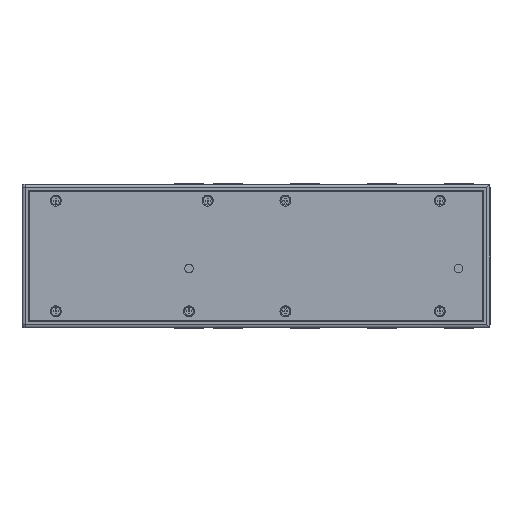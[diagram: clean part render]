
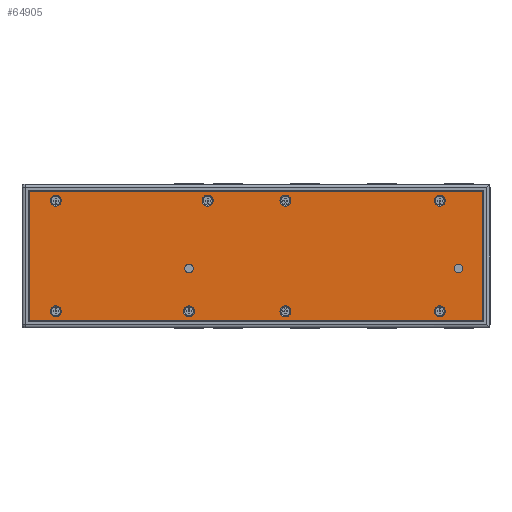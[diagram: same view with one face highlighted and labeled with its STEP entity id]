
A CAD part, front view. The second image highlights one B-rep face of the part: STEP entity #64905.
In plain terms, the highlighted planar face has unit normal (0, -1, 0) as drawn and (0, 0, 1) by its records, which use the part's own axes.
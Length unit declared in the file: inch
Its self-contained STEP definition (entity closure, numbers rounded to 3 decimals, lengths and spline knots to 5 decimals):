
#62647=CARTESIAN_POINT('',(-4.6905,-1.3355,0.0435));
#62648=VERTEX_POINT('',#62647);
#62656=CARTESIAN_POINT('',(-4.9555,-1.3355,0.0435));
#62657=VERTEX_POINT('',#62656);
#62664=CARTESIAN_POINT('',(-4.823,-1.3355,0.0435));
#62665=DIRECTION('',(0.0,0.0,-1.0));
#62666=DIRECTION('',(1.0,0.0,0.0));
#62667=AXIS2_PLACEMENT_3D('',#62664,#62665,#62666);
#62668=CIRCLE('',#62667,0.1325);
#62669=EDGE_CURVE('',#62648,#62657,#62668,.T.);
#62763=CARTESIAN_POINT('',(0.8445,-1.3355,0.0435));
#62764=VERTEX_POINT('',#62763);
#62772=CARTESIAN_POINT('',(0.5795,-1.3355,0.0435));
#62773=VERTEX_POINT('',#62772);
#62780=CARTESIAN_POINT('',(0.712,-1.3355,0.0435));
#62781=DIRECTION('',(0.0,0.0,-1.0));
#62782=DIRECTION('',(1.0,0.0,0.0));
#62783=AXIS2_PLACEMENT_3D('',#62780,#62781,#62782);
#62784=CIRCLE('',#62783,0.1325);
#62785=EDGE_CURVE('',#62764,#62773,#62784,.T.);
#62879=CARTESIAN_POINT('',(4.5645,1.3355,0.0435));
#62880=VERTEX_POINT('',#62879);
#62888=CARTESIAN_POINT('',(4.2995,1.3355,0.0435));
#62889=VERTEX_POINT('',#62888);
#62896=CARTESIAN_POINT('',(4.432,1.3355,0.0435));
#62897=DIRECTION('',(0.0,0.0,-1.0));
#62898=DIRECTION('',(1.0,0.0,0.0));
#62899=AXIS2_PLACEMENT_3D('',#62896,#62897,#62898);
#62900=CIRCLE('',#62899,0.1325);
#62901=EDGE_CURVE('',#62880,#62889,#62900,.T.);
#62995=CARTESIAN_POINT('',(-1.0285,1.3355,0.0435));
#62996=VERTEX_POINT('',#62995);
#63004=CARTESIAN_POINT('',(-1.2935,1.3355,0.0435));
#63005=VERTEX_POINT('',#63004);
#63012=CARTESIAN_POINT('',(-1.161,1.3355,0.0435));
#63013=DIRECTION('',(0.0,0.0,-1.0));
#63014=DIRECTION('',(1.0,0.0,0.0));
#63015=AXIS2_PLACEMENT_3D('',#63012,#63013,#63014);
#63016=CIRCLE('',#63015,0.1325);
#63017=EDGE_CURVE('',#62996,#63005,#63016,.T.);
#63111=CARTESIAN_POINT('',(-4.6905,1.3355,0.0435));
#63112=VERTEX_POINT('',#63111);
#63120=CARTESIAN_POINT('',(-4.9555,1.3355,0.0435));
#63121=VERTEX_POINT('',#63120);
#63128=CARTESIAN_POINT('',(-4.823,1.3355,0.0435));
#63129=DIRECTION('',(0.0,0.0,-1.0));
#63130=DIRECTION('',(1.0,0.0,0.0));
#63131=AXIS2_PLACEMENT_3D('',#63128,#63129,#63130);
#63132=CIRCLE('',#63131,0.1325);
#63133=EDGE_CURVE('',#63112,#63121,#63132,.T.);
#63227=CARTESIAN_POINT('',(0.8445,1.3355,0.0435));
#63228=VERTEX_POINT('',#63227);
#63236=CARTESIAN_POINT('',(0.5795,1.3355,0.0435));
#63237=VERTEX_POINT('',#63236);
#63244=CARTESIAN_POINT('',(0.712,1.3355,0.0435));
#63245=DIRECTION('',(0.0,0.0,-1.0));
#63246=DIRECTION('',(1.0,0.0,0.0));
#63247=AXIS2_PLACEMENT_3D('',#63244,#63245,#63246);
#63248=CIRCLE('',#63247,0.1325);
#63249=EDGE_CURVE('',#63228,#63237,#63248,.T.);
#63343=CARTESIAN_POINT('',(4.5645,-1.3355,0.0435));
#63344=VERTEX_POINT('',#63343);
#63352=CARTESIAN_POINT('',(4.2995,-1.3355,0.0435));
#63353=VERTEX_POINT('',#63352);
#63360=CARTESIAN_POINT('',(4.432,-1.3355,0.0435));
#63361=DIRECTION('',(0.0,0.0,-1.0));
#63362=DIRECTION('',(1.0,0.0,0.0));
#63363=AXIS2_PLACEMENT_3D('',#63360,#63361,#63362);
#63364=CIRCLE('',#63363,0.1325);
#63365=EDGE_CURVE('',#63344,#63353,#63364,.T.);
#63459=CARTESIAN_POINT('',(-1.4805,-1.3355,0.0435));
#63460=VERTEX_POINT('',#63459);
#63468=CARTESIAN_POINT('',(-1.7455,-1.3355,0.0435));
#63469=VERTEX_POINT('',#63468);
#63476=CARTESIAN_POINT('',(-1.613,-1.3355,0.0435));
#63477=DIRECTION('',(0.0,0.0,-1.0));
#63478=DIRECTION('',(1.0,0.0,0.0));
#63479=AXIS2_PLACEMENT_3D('',#63476,#63477,#63478);
#63480=CIRCLE('',#63479,0.1325);
#63481=EDGE_CURVE('',#63460,#63469,#63480,.T.);
#63514=CARTESIAN_POINT('',(4.99,-0.3015,0.0435));
#63515=VERTEX_POINT('',#63514);
#63531=CARTESIAN_POINT('',(4.784,-0.3015,0.0435));
#63532=VERTEX_POINT('',#63531);
#63539=CARTESIAN_POINT('',(4.887,-0.3015,0.0435));
#63540=DIRECTION('',(0.0,0.0,-1.0));
#63541=DIRECTION('',(1.0,0.0,0.0));
#63542=AXIS2_PLACEMENT_3D('',#63539,#63540,#63541);
#63543=CIRCLE('',#63542,0.103);
#63544=EDGE_CURVE('',#63515,#63532,#63543,.T.);
#63577=CARTESIAN_POINT('',(-1.51,-0.3015,0.0435));
#63578=VERTEX_POINT('',#63577);
#63594=CARTESIAN_POINT('',(-1.716,-0.3015,0.0435));
#63595=VERTEX_POINT('',#63594);
#63602=CARTESIAN_POINT('',(-1.613,-0.3015,0.0435));
#63603=DIRECTION('',(0.0,0.0,-1.0));
#63604=DIRECTION('',(1.0,0.0,0.0));
#63605=AXIS2_PLACEMENT_3D('',#63602,#63603,#63604);
#63606=CIRCLE('',#63605,0.103);
#63607=EDGE_CURVE('',#63578,#63595,#63606,.T.);
#63639=CARTESIAN_POINT('',(-1.613,-0.3015,0.0435));
#63640=DIRECTION('',(0.0,0.0,-1.0));
#63641=DIRECTION('',(1.0,0.0,0.0));
#63642=AXIS2_PLACEMENT_3D('',#63639,#63640,#63641);
#63643=CIRCLE('',#63642,0.103);
#63644=EDGE_CURVE('',#63595,#63578,#63643,.T.);
#63684=CARTESIAN_POINT('',(4.887,-0.3015,0.0435));
#63685=DIRECTION('',(0.0,0.0,-1.0));
#63686=DIRECTION('',(1.0,0.0,0.0));
#63687=AXIS2_PLACEMENT_3D('',#63684,#63685,#63686);
#63688=CIRCLE('',#63687,0.103);
#63689=EDGE_CURVE('',#63532,#63515,#63688,.T.);
#63729=CARTESIAN_POINT('',(-1.613,-1.3355,0.0435));
#63730=DIRECTION('',(0.0,0.0,-1.0));
#63731=DIRECTION('',(1.0,0.0,0.0));
#63732=AXIS2_PLACEMENT_3D('',#63729,#63730,#63731);
#63733=CIRCLE('',#63732,0.1325);
#63734=EDGE_CURVE('',#63469,#63460,#63733,.T.);
#63813=CARTESIAN_POINT('',(4.432,-1.3355,0.0435));
#63814=DIRECTION('',(0.0,0.0,-1.0));
#63815=DIRECTION('',(1.0,0.0,0.0));
#63816=AXIS2_PLACEMENT_3D('',#63813,#63814,#63815);
#63817=CIRCLE('',#63816,0.1325);
#63818=EDGE_CURVE('',#63353,#63344,#63817,.T.);
#63897=CARTESIAN_POINT('',(0.712,1.3355,0.0435));
#63898=DIRECTION('',(0.0,0.0,-1.0));
#63899=DIRECTION('',(1.0,0.0,0.0));
#63900=AXIS2_PLACEMENT_3D('',#63897,#63898,#63899);
#63901=CIRCLE('',#63900,0.1325);
#63902=EDGE_CURVE('',#63237,#63228,#63901,.T.);
#63981=CARTESIAN_POINT('',(-4.823,1.3355,0.0435));
#63982=DIRECTION('',(0.0,0.0,-1.0));
#63983=DIRECTION('',(1.0,0.0,0.0));
#63984=AXIS2_PLACEMENT_3D('',#63981,#63982,#63983);
#63985=CIRCLE('',#63984,0.1325);
#63986=EDGE_CURVE('',#63121,#63112,#63985,.T.);
#64065=CARTESIAN_POINT('',(-1.161,1.3355,0.0435));
#64066=DIRECTION('',(0.0,0.0,-1.0));
#64067=DIRECTION('',(1.0,0.0,0.0));
#64068=AXIS2_PLACEMENT_3D('',#64065,#64066,#64067);
#64069=CIRCLE('',#64068,0.1325);
#64070=EDGE_CURVE('',#63005,#62996,#64069,.T.);
#64149=CARTESIAN_POINT('',(4.432,1.3355,0.0435));
#64150=DIRECTION('',(0.0,0.0,-1.0));
#64151=DIRECTION('',(1.0,0.0,0.0));
#64152=AXIS2_PLACEMENT_3D('',#64149,#64150,#64151);
#64153=CIRCLE('',#64152,0.1325);
#64154=EDGE_CURVE('',#62889,#62880,#64153,.T.);
#64233=CARTESIAN_POINT('',(0.712,-1.3355,0.0435));
#64234=DIRECTION('',(0.0,0.0,-1.0));
#64235=DIRECTION('',(1.0,0.0,0.0));
#64236=AXIS2_PLACEMENT_3D('',#64233,#64234,#64235);
#64237=CIRCLE('',#64236,0.1325);
#64238=EDGE_CURVE('',#62773,#62764,#64237,.T.);
#64317=CARTESIAN_POINT('',(-4.823,-1.3355,0.0435));
#64318=DIRECTION('',(0.0,0.0,-1.0));
#64319=DIRECTION('',(1.0,0.0,0.0));
#64320=AXIS2_PLACEMENT_3D('',#64317,#64318,#64319);
#64321=CIRCLE('',#64320,0.1325);
#64322=EDGE_CURVE('',#62657,#62648,#64321,.T.);
#64763=CARTESIAN_POINT('',(5.465,1.5635,0.0435));
#64764=VERTEX_POINT('',#64763);
#64765=CARTESIAN_POINT('',(5.465,-1.5635,0.0435));
#64766=VERTEX_POINT('',#64765);
#64767=CARTESIAN_POINT('',(5.465,1.5635,0.0435));
#64768=DIRECTION('',(0.0,-1.0,0.0));
#64769=VECTOR('',#64768,3.127);
#64770=LINE('',#64767,#64769);
#64771=EDGE_CURVE('',#64764,#64766,#64770,.T.);
#64794=CARTESIAN_POINT('',(-5.465,-1.5635,0.0435));
#64795=VERTEX_POINT('',#64794);
#64796=CARTESIAN_POINT('',(5.465,-1.5635,0.0435));
#64797=DIRECTION('',(-1.0,0.0,0.0));
#64798=VECTOR('',#64797,10.93);
#64799=LINE('',#64796,#64798);
#64800=EDGE_CURVE('',#64766,#64795,#64799,.T.);
#64818=CARTESIAN_POINT('',(-5.465,1.5635,0.0435));
#64819=VERTEX_POINT('',#64818);
#64820=CARTESIAN_POINT('',(-5.465,-1.5635,0.0435));
#64821=DIRECTION('',(0.0,1.0,0.0));
#64822=VECTOR('',#64821,3.127);
#64823=LINE('',#64820,#64822);
#64824=EDGE_CURVE('',#64795,#64819,#64823,.T.);
#64842=CARTESIAN_POINT('',(-5.465,1.5635,0.0435));
#64843=DIRECTION('',(1.0,0.0,0.0));
#64844=VECTOR('',#64843,10.93);
#64845=LINE('',#64842,#64844);
#64846=EDGE_CURVE('',#64819,#64764,#64845,.T.);
#64854=CARTESIAN_POINT('',(0.0,0.,0.0435));
#64855=DIRECTION('',(0.0,0.0,1.0));
#64856=DIRECTION('',(1.0,0.0,0.0));
#64857=AXIS2_PLACEMENT_3D('',#64854,#64855,#64856);
#64858=PLANE('',#64857);
#64859=ORIENTED_EDGE('',*,*,#64771,.F.);
#64860=ORIENTED_EDGE('',*,*,#64846,.F.);
#64861=ORIENTED_EDGE('',*,*,#64824,.F.);
#64862=ORIENTED_EDGE('',*,*,#64800,.F.);
#64863=EDGE_LOOP('',(#64859,#64860,#64861,#64862));
#64864=FACE_OUTER_BOUND('',#64863,.T.);
#64865=ORIENTED_EDGE('',*,*,#63607,.T.);
#64866=ORIENTED_EDGE('',*,*,#63644,.T.);
#64867=EDGE_LOOP('',(#64865,#64866));
#64868=FACE_BOUND('',#64867,.T.);
#64869=ORIENTED_EDGE('',*,*,#63544,.T.);
#64870=ORIENTED_EDGE('',*,*,#63689,.T.);
#64871=EDGE_LOOP('',(#64869,#64870));
#64872=FACE_BOUND('',#64871,.T.);
#64873=ORIENTED_EDGE('',*,*,#63481,.T.);
#64874=ORIENTED_EDGE('',*,*,#63734,.T.);
#64875=EDGE_LOOP('',(#64873,#64874));
#64876=FACE_BOUND('',#64875,.T.);
#64877=ORIENTED_EDGE('',*,*,#63365,.T.);
#64878=ORIENTED_EDGE('',*,*,#63818,.T.);
#64879=EDGE_LOOP('',(#64877,#64878));
#64880=FACE_BOUND('',#64879,.T.);
#64881=ORIENTED_EDGE('',*,*,#63249,.T.);
#64882=ORIENTED_EDGE('',*,*,#63902,.T.);
#64883=EDGE_LOOP('',(#64881,#64882));
#64884=FACE_BOUND('',#64883,.T.);
#64885=ORIENTED_EDGE('',*,*,#63133,.T.);
#64886=ORIENTED_EDGE('',*,*,#63986,.T.);
#64887=EDGE_LOOP('',(#64885,#64886));
#64888=FACE_BOUND('',#64887,.T.);
#64889=ORIENTED_EDGE('',*,*,#63017,.T.);
#64890=ORIENTED_EDGE('',*,*,#64070,.T.);
#64891=EDGE_LOOP('',(#64889,#64890));
#64892=FACE_BOUND('',#64891,.T.);
#64893=ORIENTED_EDGE('',*,*,#62901,.T.);
#64894=ORIENTED_EDGE('',*,*,#64154,.T.);
#64895=EDGE_LOOP('',(#64893,#64894));
#64896=FACE_BOUND('',#64895,.T.);
#64897=ORIENTED_EDGE('',*,*,#62785,.T.);
#64898=ORIENTED_EDGE('',*,*,#64238,.T.);
#64899=EDGE_LOOP('',(#64897,#64898));
#64900=FACE_BOUND('',#64899,.T.);
#64901=ORIENTED_EDGE('',*,*,#62669,.T.);
#64902=ORIENTED_EDGE('',*,*,#64322,.T.);
#64903=EDGE_LOOP('',(#64901,#64902));
#64904=FACE_BOUND('',#64903,.T.);
#64905=ADVANCED_FACE('',(#64864,#64868,#64872,#64876,#64880,#64884,#64888,#64892,#64896,#64900,#64904),#64858,.T.);
